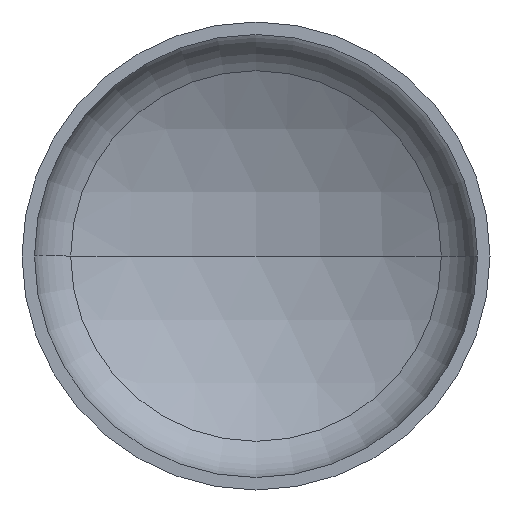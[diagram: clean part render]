
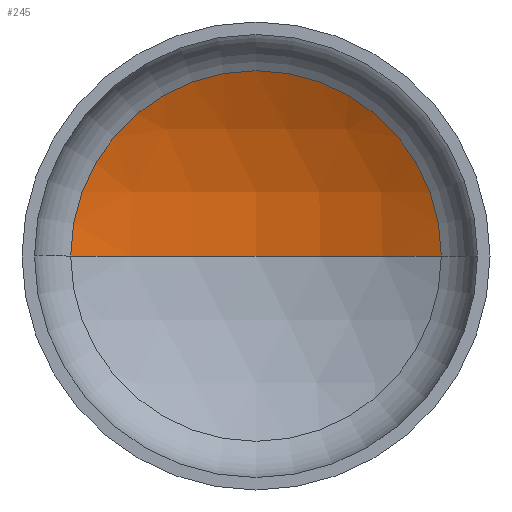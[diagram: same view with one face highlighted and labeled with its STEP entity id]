
A CAD part, front view. The second image highlights one B-rep face of the part: STEP entity #245.
In plain terms, the highlighted spherical face has radius 2400 mm.
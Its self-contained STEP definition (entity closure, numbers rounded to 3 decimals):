
#19 = AXIS2_PLACEMENT_3D ( 'NONE', #329, #147, #411 ) ;
#24 = EDGE_LOOP ( 'NONE', ( #130, #69, #120 ) ) ;
#27 = AXIS2_PLACEMENT_3D ( 'NONE', #371, #232, #392 ) ;
#44 = AXIS2_PLACEMENT_3D ( 'NONE', #293, #172, #180 ) ;
#58 = AXIS2_PLACEMENT_3D ( 'NONE', #77, #393, #257 ) ;
#69 = ORIENTED_EDGE ( 'NONE', *, *, #347, .T. ) ;
#77 = CARTESIAN_POINT ( 'NONE',  ( 0., -1565.823, 0. ) ) ;
#78 = VERTEX_POINT ( 'NONE', #311 ) ;
#120 = ORIENTED_EDGE ( 'NONE', *, *, #341, .T. ) ;
#127 = CARTESIAN_POINT ( 'NONE',  ( 0., 834.177, 0. ) ) ;
#130 = ORIENTED_EDGE ( 'NONE', *, *, #389, .F. ) ;
#135 = VERTEX_POINT ( 'NONE', #206 ) ;
#141 = CIRCLE ( 'NONE', #19, 2400. ) ;
#147 = DIRECTION ( 'NONE',  ( 0., 0., -1. ) ) ;
#172 = DIRECTION ( 'NONE',  ( 0., 0., -1. ) ) ;
#180 = DIRECTION ( 'NONE',  ( -1., 0., 0. ) ) ;
#198 = CIRCLE ( 'NONE', #58, 2400. ) ;
#206 = CARTESIAN_POINT ( 'NONE',  ( -1187.629, 519.731, 0. ) ) ;
#232 = DIRECTION ( 'NONE',  ( 0., -1., 0. ) ) ;
#245 = ADVANCED_FACE ( 'NONE', ( #307 ), #251, .F. ) ;
#251 = SPHERICAL_SURFACE ( 'NONE', #44, 2400. ) ;
#257 = DIRECTION ( 'NONE',  ( 1., 0., 0. ) ) ;
#293 = CARTESIAN_POINT ( 'NONE',  ( 0., -1565.823, 0. ) ) ;
#307 = FACE_OUTER_BOUND ( 'NONE', #24, .T. ) ;
#311 = CARTESIAN_POINT ( 'NONE',  ( 1187.629, 519.731, 0. ) ) ;
#329 = CARTESIAN_POINT ( 'NONE',  ( 0., -1565.823, 0. ) ) ;
#341 = EDGE_CURVE ( 'NONE', #78, #135, #348, .T. ) ;
#344 = VERTEX_POINT ( 'NONE', #127 ) ;
#347 = EDGE_CURVE ( 'NONE', #344, #78, #141, .T. ) ;
#348 = CIRCLE ( 'NONE', #27, 1187.629 ) ;
#371 = CARTESIAN_POINT ( 'NONE',  ( 0., 519.731, 0. ) ) ;
#389 = EDGE_CURVE ( 'NONE', #344, #135, #198, .T. ) ;
#392 = DIRECTION ( 'NONE',  ( 1., 0., 0. ) ) ;
#393 = DIRECTION ( 'NONE',  ( 0., 0., 1. ) ) ;
#411 = DIRECTION ( 'NONE',  ( -1., 0., 0. ) ) ;
